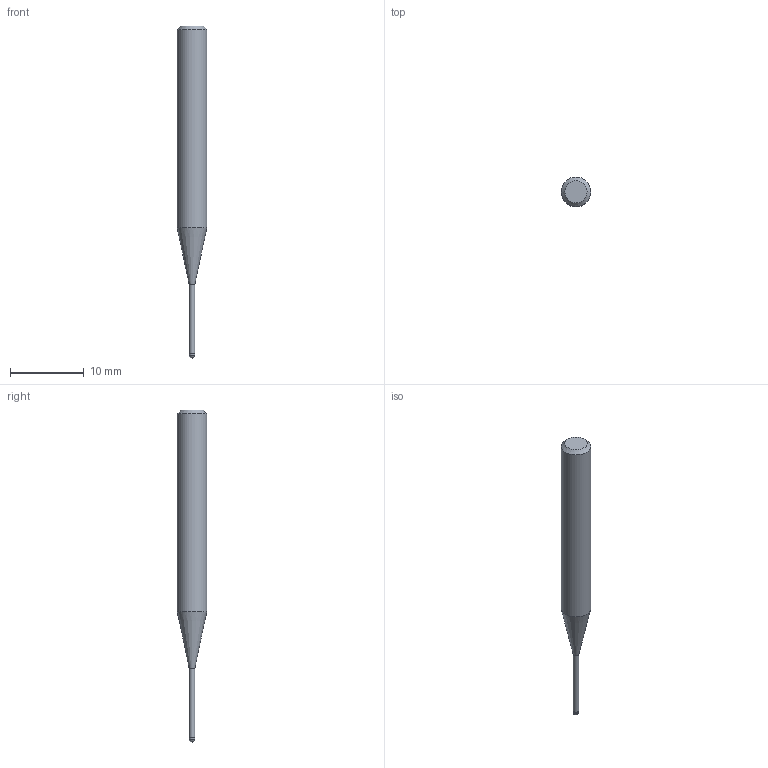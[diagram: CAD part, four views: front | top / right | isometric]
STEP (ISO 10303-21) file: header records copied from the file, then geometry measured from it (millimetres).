
FILE_DESCRIPTION((''),'2;1');
FILE_NAME('C:\Users\nsx150\AppData\Local\Temp\Mastercam 2021\3SYKECWX22\TEMP.step','2021-04-22T10:01:47',(''),(''),'STEP Write','Mastercam 2021 ... CNC Software, Inc.','');
FILE_SCHEMA(('AUTOMOTIVE_DESIGN'));
Length unit declared in the file: millimetre
Products named in the file (1): None
Bounding box: 4 x 4 x 45 mm (x, y, z)
Volume: 386.3 mm3; surface area: 435.8 mm2
Topology: 2 solids, 2 shells, 9 faces, 14 edges, 8 vertices
Faces by surface type: plane 3, cylinder 3, cone 2, sphere 1
Full cylindrical faces by diameter (mm): 0.76 x1, 0.8 x1, 4 x1
Entity records: 211 total; most frequent: DIRECTION 36, CARTESIAN_POINT 25, AXIS2_PLACEMENT_3D 18, ORIENTED_EDGE 14, EDGE_LOOP 14, STYLED_ITEM 12, ADVANCED_FACE 9, FACE_BOUND 8
